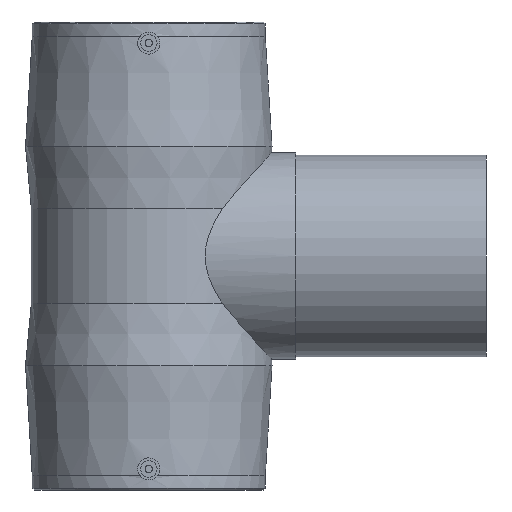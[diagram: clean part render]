
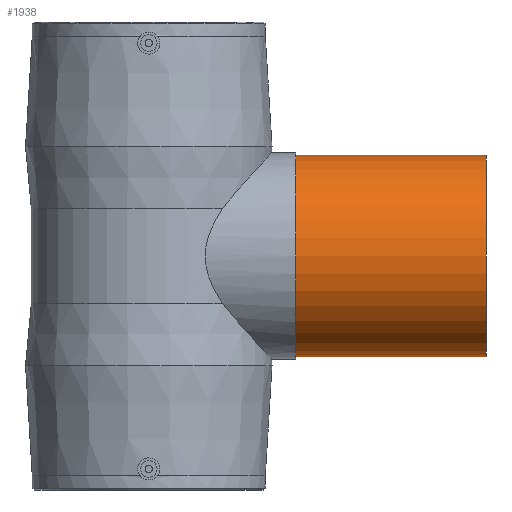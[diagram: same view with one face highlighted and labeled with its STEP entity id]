
A CAD part, front view. The second image highlights one B-rep face of the part: STEP entity #1938.
In plain terms, the highlighted cylindrical face has radius 55 mm (diameter 110 mm), a partial arc.
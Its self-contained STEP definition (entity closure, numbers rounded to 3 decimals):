
#351 = EDGE_CURVE ( 'NONE', #678, #633, #1327, .T. ) ;
#354 = EDGE_CURVE ( 'NONE', #669, #632, #1323, .T. ) ;
#388 = ORIENTED_EDGE ( 'NONE', *, *, #901, .F. ) ;
#389 = ORIENTED_EDGE ( 'NONE', *, *, #354, .F. ) ;
#390 = ORIENTED_EDGE ( 'NONE', *, *, #908, .T. ) ;
#391 = ORIENTED_EDGE ( 'NONE', *, *, #351, .T. ) ;
#632 = VERTEX_POINT ( 'NONE', #2071 ) ;
#633 = VERTEX_POINT ( 'NONE', #2066 ) ;
#669 = VERTEX_POINT ( 'NONE', #2102 ) ;
#678 = VERTEX_POINT ( 'NONE', #1588 ) ;
#901 = EDGE_CURVE ( 'NONE', #632, #633, #1646, .T. ) ;
#908 = EDGE_CURVE ( 'NONE', #669, #678, #1372, .T. ) ;
#1016 = EDGE_LOOP ( 'NONE', ( #388, #389, #390, #391 ) ) ;
#1137 = AXIS2_PLACEMENT_3D ( 'NONE', #1760, #1748, #1763 ) ;
#1258 = VECTOR ( 'NONE', #1378, 1000. ) ;
#1295 = VECTOR ( 'NONE', #1650, 1000. ) ;
#1318 = AXIS2_PLACEMENT_3D ( 'NONE', #1991, #1992, #1993 ) ;
#1323 = CIRCLE ( 'NONE', #1318, 55. ) ;
#1324 = AXIS2_PLACEMENT_3D ( 'NONE', #1980, #1981, #1982 ) ;
#1327 = CIRCLE ( 'NONE', #1324, 55. ) ;
#1372 = LINE ( 'NONE', #1377, #1258 ) ;
#1377 = CARTESIAN_POINT ( 'NONE',  ( 132., 0., 55. ) ) ;
#1378 = DIRECTION ( 'NONE',  ( -1., 0., 0. ) ) ;
#1588 = CARTESIAN_POINT ( 'NONE',  ( 80., 0., 55. ) ) ;
#1640 = CARTESIAN_POINT ( 'NONE',  ( 132., 0., -55. ) ) ;
#1646 = LINE ( 'NONE', #1640, #1295 ) ;
#1650 = DIRECTION ( 'NONE',  ( -1., 0., 0. ) ) ;
#1748 = DIRECTION ( 'NONE',  ( -1., 0., 0. ) ) ;
#1759 = FACE_OUTER_BOUND ( 'NONE', #1016, .T. ) ;
#1760 = CARTESIAN_POINT ( 'NONE',  ( 132., 0., 0. ) ) ;
#1762 = CYLINDRICAL_SURFACE ( 'NONE', #1137, 55. ) ;
#1763 = DIRECTION ( 'NONE',  ( 0., 0., 1. ) ) ;
#1938 = ADVANCED_FACE ( 'NONE', ( #1759 ), #1762, .T. ) ;
#1980 = CARTESIAN_POINT ( 'NONE',  ( 80., 0., 0. ) ) ;
#1981 = DIRECTION ( 'NONE',  ( 1., 0., 0. ) ) ;
#1982 = DIRECTION ( 'NONE',  ( 0., 0., 1. ) ) ;
#1991 = CARTESIAN_POINT ( 'NONE',  ( 184., 0., 0. ) ) ;
#1992 = DIRECTION ( 'NONE',  ( 1., 0., 0. ) ) ;
#1993 = DIRECTION ( 'NONE',  ( 0., 0., 1. ) ) ;
#2066 = CARTESIAN_POINT ( 'NONE',  ( 80., 0., -55. ) ) ;
#2071 = CARTESIAN_POINT ( 'NONE',  ( 184., 0., -55. ) ) ;
#2102 = CARTESIAN_POINT ( 'NONE',  ( 184., 0., 55. ) ) ;
